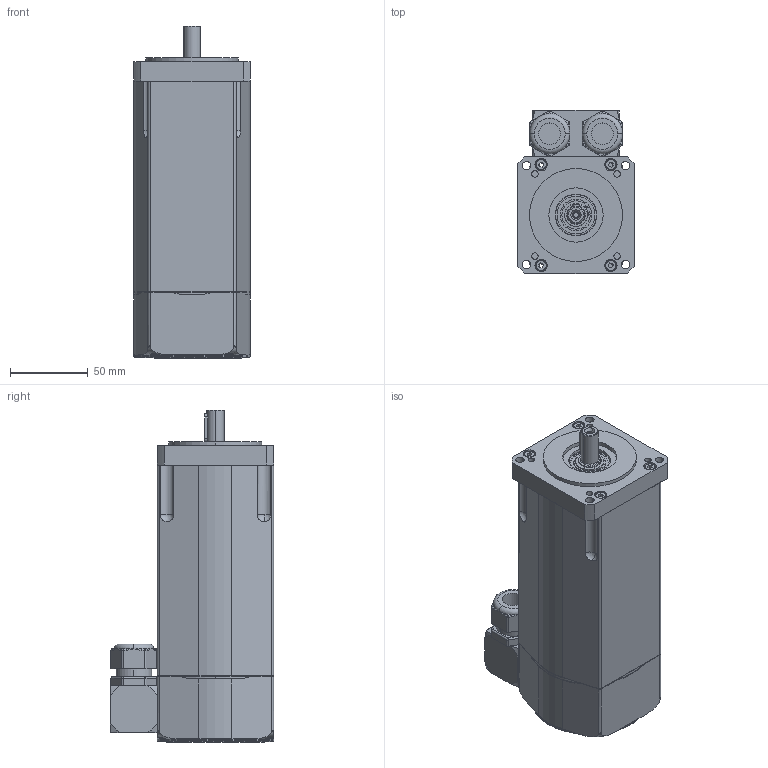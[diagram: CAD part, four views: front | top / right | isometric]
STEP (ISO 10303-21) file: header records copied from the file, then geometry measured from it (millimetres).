
FILE_DESCRIPTION (( 'STEP AP203' ), '1' );
FILE_NAME ('SSAX_75_M_SF .STEP', '2017-06-01T13:15:11', ( 'Tecnico motori' ), ( '' ), 'SwSTEP 2.0', 'SolidWorks 2010', '' );
FILE_SCHEMA (( 'CONFIG_CONTROL_DESIGN' ));
Length unit declared in the file: millimetre
Products named in the file (1): SSAX_75_M_SF 
Bounding box: 75 x 105.3 x 214.2 mm (x, y, z)
Surface area: 86770.4 mm2 (no closed solid volume)
Topology: 0 solids, 20 shells, 410 faces, 1156 edges, 738 vertices
Faces by surface type: cylinder 155, plane 145, cone 32, torus 30, sphere 28, bspline 20
Entity records: 14166 total; most frequent: CARTESIAN_POINT 3587, DIRECTION 2337, ORIENTED_EDGE 1991, EDGE_CURVE 1124, AXIS2_PLACEMENT_3D 914, VERTEX_POINT 732, CIRCLE 523, VECTOR 509
